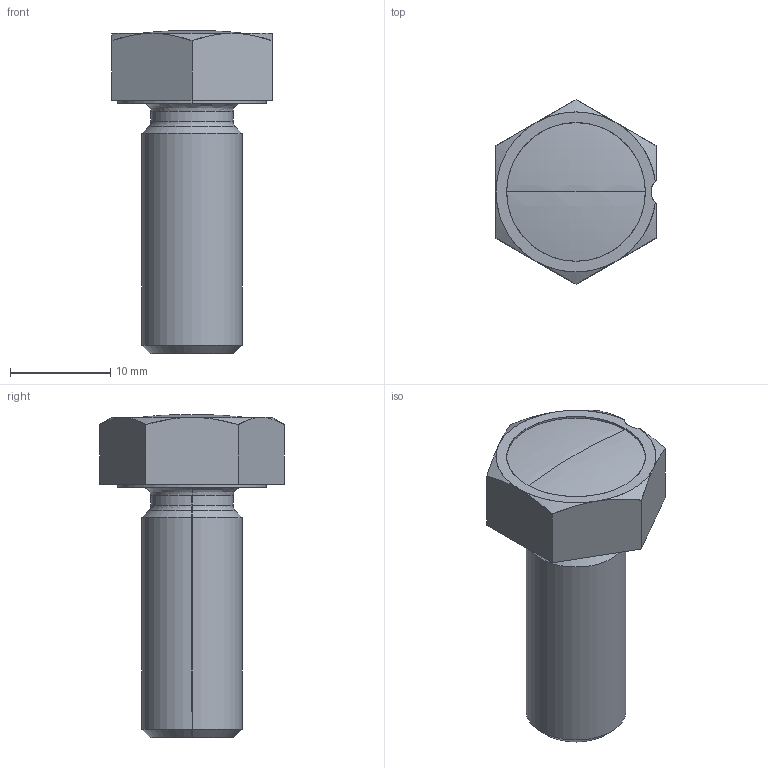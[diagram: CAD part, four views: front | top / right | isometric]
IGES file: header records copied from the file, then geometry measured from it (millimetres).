
Start section: SolidWorks IGES file using analytic representation for surfaces
Global section: file name: E:\Widmaier\3D-Daten\Z-RFC-P18_19_20\Z-RFC-P18.IGS; native system: SolidWorks 2017; preprocessor: SolidWorks 2017; author: Thiel; date: 171026.071029; units: millimetre
Bounding box: 16 x 18.48 x 32.29 mm (x, y, z)
Surface area: 1797.2 mm2 (no closed solid volume)
Topology: 0 solids, 0 shells, 36 faces, 444 edges, 444 vertices
Faces by surface type: revolution 21, bspline 15
